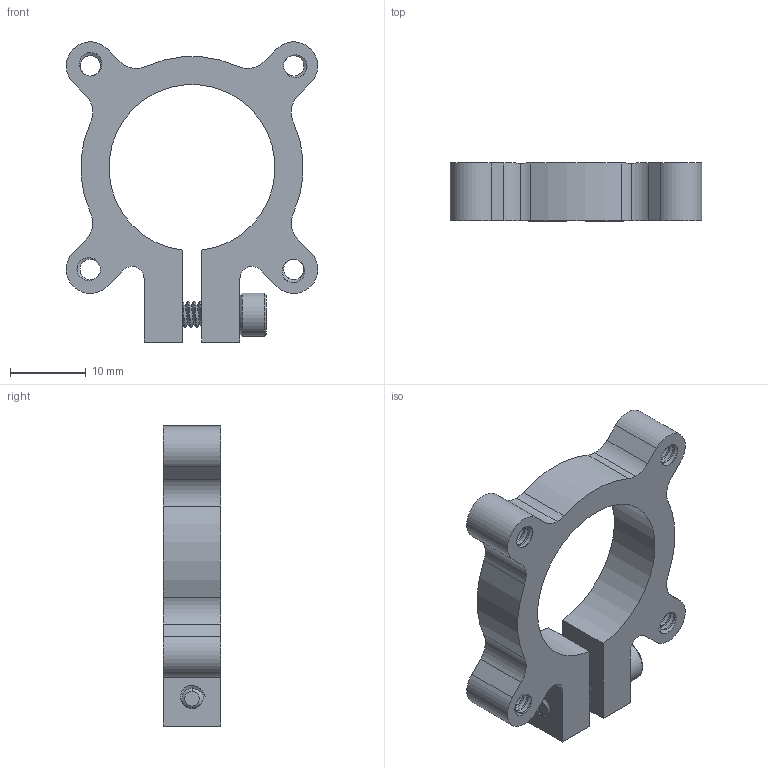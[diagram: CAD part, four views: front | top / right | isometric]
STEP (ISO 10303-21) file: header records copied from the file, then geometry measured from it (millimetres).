
FILE_DESCRIPTION (( 'STEP AP203' ), '1' );
FILE_NAME ('545666 assembly.STEP', '2016-08-18T16:25:51', ( '' ), ( '' ), 'SwSTEP 2.0', 'SolidWorks 2014', '' );
FILE_SCHEMA (( 'CONFIG_CONTROL_DESIGN' ));
Length unit declared in the file: inch
Products named in the file (3): 545666; 545666 assembly; 632114_90128A121
Assembly tree (2 placements, depth 2):
  545666 assembly
    545666
    632114_90128A121
Bounding box: 33.28 x 7.62 x 39.72 mm (x, y, z)
Volume: 4170.5 mm3; surface area: 3842.7 mm2
Topology: 2 solids, 2 shells, 339 faces, 983 edges, 650 vertices
Faces by surface type: cylinder 288, plane 26, cone 13, bspline 12
Entity records: 19514 total; most frequent: CARTESIAN_POINT 11792, ORIENTED_EDGE 1966, DIRECTION 1205, EDGE_CURVE 983, VERTEX_POINT 650, AXIS2_PLACEMENT_3D 434, EDGE_LOOP 353, FACE_OUTER_BOUND 339
